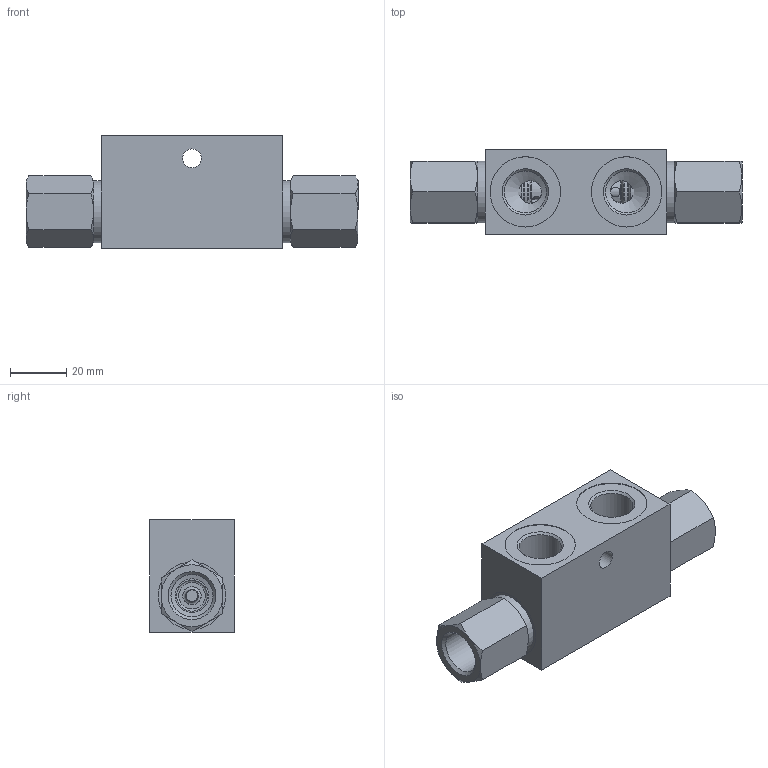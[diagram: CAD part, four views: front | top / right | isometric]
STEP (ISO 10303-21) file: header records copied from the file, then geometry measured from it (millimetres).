
FILE_DESCRIPTION(/* description */ (''),/* implementation_level */ '2;1');
FILE_NAME(/* name */ 'C:\Users\fabio.radici.LUEN\Desktop\N03-027-AJ0-A_Shrinkwrap.stp',/* time_stamp */ '2020-10-09T14:21:11+02:00',/* author */ ('Fabio.Radici'),/* organization */ (''),/* preprocessor_version */ 'ST-DEVELOPER v18',/* originating_system */ 'Autodesk Inventor 2020',/* authorisation */ '');
FILE_SCHEMA (('AUTOMOTIVE_DESIGN { 1 0 10303 214 3 1 1 }'));
Length unit declared in the file: millimetre
Products named in the file (1): N03-027-AJ0-A_Shrinkwrap
Bounding box: 118 x 30 x 40 mm (x, y, z)
Surface area: 21664.7 mm2 (no closed solid volume)
Topology: 0 solids, 13 shells, 110 faces, 333 edges, 235 vertices
Faces by surface type: cone 42, plane 31, cylinder 28, torus 9
Full cylindrical faces by diameter (mm): 3.5 x2, 4 x2, 4.5 x2, 6.5 x1, 6.647 x1, 8 x2, 12 x2, 13 x2, 14.95 x4, 16 x2, 18 x2, 22 x2, 24 x2, 25 x2
Entity records: 4686 total; most frequent: CARTESIAN_POINT 1536, DIRECTION 633, ORIENTED_EDGE 605, EDGE_CURVE 332, AXIS2_PLACEMENT_3D 280, VERTEX_POINT 235, CIRCLE 169, EDGE_LOOP 137
